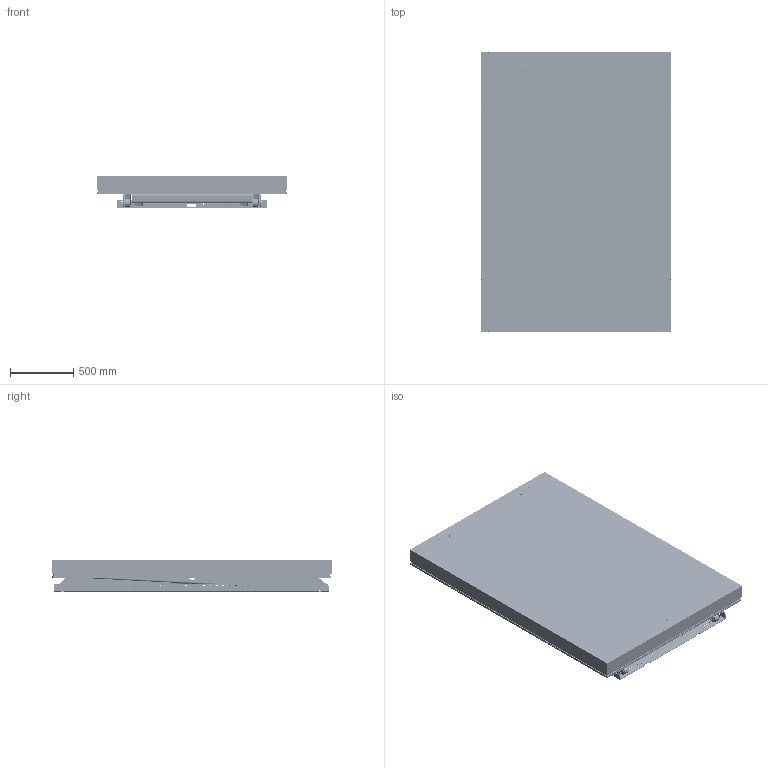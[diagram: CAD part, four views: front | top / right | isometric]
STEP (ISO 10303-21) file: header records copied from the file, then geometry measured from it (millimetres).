
FILE_DESCRIPTION(/* description */ ('Tvärförbindning med gavel'),/* implementation_level */ '2;1');
FILE_NAME(/* name */ '\\EDMOFILE01\Users$\JOHSO\Desktop\610969_Botten.stp',/* time_stamp */ '2015-10-20T08:46:20+02:00',/* author */ ('JOHSO'),/* organization */ (''),/* preprocessor_version */ 'ST-DEVELOPER v15.6',/* originating_system */ 'Autodesk Inventor 2015',/* authorisation */ '');
FILE_SCHEMA (('AUTOMOTIVE_DESIGN { 1 0 10303 214 3 1 1 }'));
Products named in the file (37): 514601-4; 514601-1_Höger; 514601-1_Vänster; 514601-2; 44870; 45259; 514600; 82159-2112; 606529; 80060-768; Copy of ISO 4019 - 80x40x4 - 768; 606522; 82159-2112_1; 603642; 82092-949; 606523; 601715; 45387; 80131; 41333-1600; 601716; 601719; 85955; 33048; 42289-1453; 42289-2173; 42330; 42331; 43481; ISO 4032 - M8ISO; 43476; 33990; 603399; 42508C; 35113-skel; 35113; 610969
Assembly tree (98 placements, depth 4):
  610969
    514600
      514601-4
      514601-1_Höger
      514601-1_Vänster
      514601-2  x2
      44870  x2
      45259  x2
    606522
      606529  x2
        82159-2112
      80060-768
      Copy of ISO 4019 - 80x40x4 - 768
    606523
      603642  x2
        82159-2112_1
      82092-949
    35113
      35113-skel
      601715
      45387  x12
      80131  x8
      41333-1600  x2
      601716  x2
      601719  x2
      45259  x2
      85955  x3
    33048  x2
    603399
      42289-1453  x2
      42289-2173  x2
      42330  x6
      42331  x4
      43481  x6
      ISO 4032 - M8ISO  x6
      43476  x4
      33990  x6
    42508C  x4
Bounding box: 1500 x 2200 x 250 mm (x, y, z)
Volume: 55993931.3 mm3; surface area: 21874124.4 mm2
Topology: 90 solids, 115 shells, 11298 faces, 31443 edges, 20675 vertices
Faces by surface type: plane 5780, cylinder 3564, bspline 1416, cone 302, torus 188, sphere 48
Full cylindrical faces by diameter (mm): 0.474 x6, 1 x12, 3 x12, 3.141 x12, 3.2 x12, 4 x48, 4.3 x12, 4.9 x6, 5 x12, 5.2 x18, 5.3 x6, 5.55 x4, 6.647 x6, 7.4 x32, 7.6 x12, 8 x32, 8.5 x6, 10 x18, 10.2 x4, 10.5 x10, 11 x6, 11.63 x8, 12 x4, 12.5 x6, 13 x6, 13.835 x15, 14.5 x16, 16 x24, 18.8 x6, 19 x3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
Entity records: 109179 total; most frequent: CARTESIAN_POINT 26376, ORIENTED_EDGE 17062, DIRECTION 16434, EDGE_CURVE 8529, VERTEX_POINT 5729, AXIS2_PLACEMENT_3D 5581, LINE 5272, VECTOR 5272
